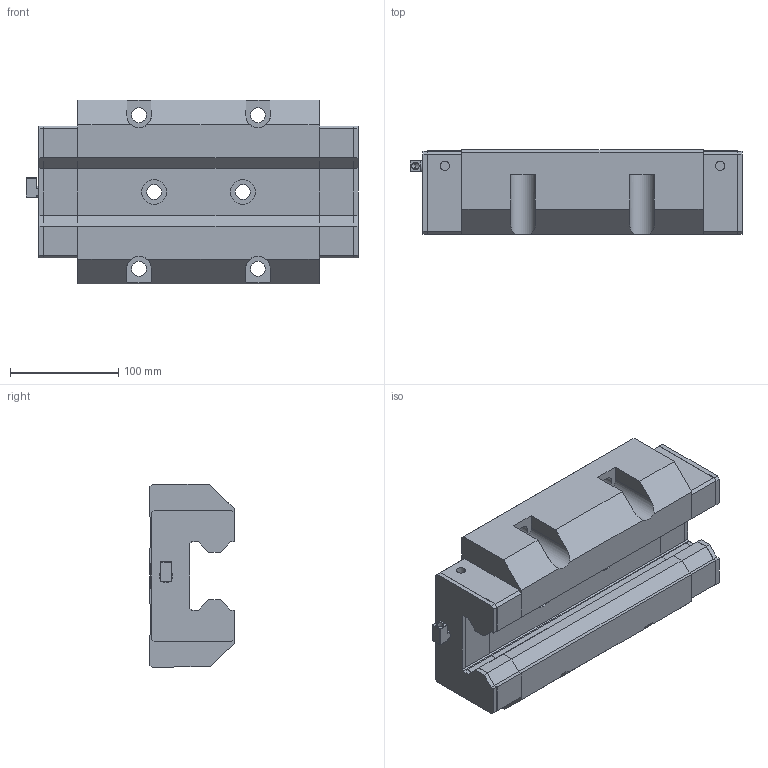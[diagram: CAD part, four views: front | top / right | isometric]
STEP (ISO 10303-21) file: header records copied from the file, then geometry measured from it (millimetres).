
FILE_DESCRIPTION (( 'STEP AP203' ), '1' );
FILE_NAME ('SGW65HC.STEP', '2025-07-11T05:01:07', ( 'Owner' ), ( 'Organization' ), 'SwSTEP 2.0', 'SolidWorks 2020', '' );
FILE_SCHEMA (( 'CONFIG_CONTROL_DESIGN' ));
Length unit declared in the file: millimetre
Products named in the file (1): SGW65HC
Bounding box: 307 x 78 x 170 mm (x, y, z)
Volume: 2716986.2 mm3; surface area: 256838.4 mm2
Topology: 7 solids, 7 shells, 335 faces, 834 edges, 529 vertices
Faces by surface type: plane 259, cylinder 68, cone 8
Entity records: 9871 total; most frequent: CARTESIAN_POINT 1739, ORIENTED_EDGE 1664, DIRECTION 1634, EDGE_CURVE 832, VECTOR 674, LINE 674, VERTEX_POINT 529, AXIS2_PLACEMENT_3D 480
